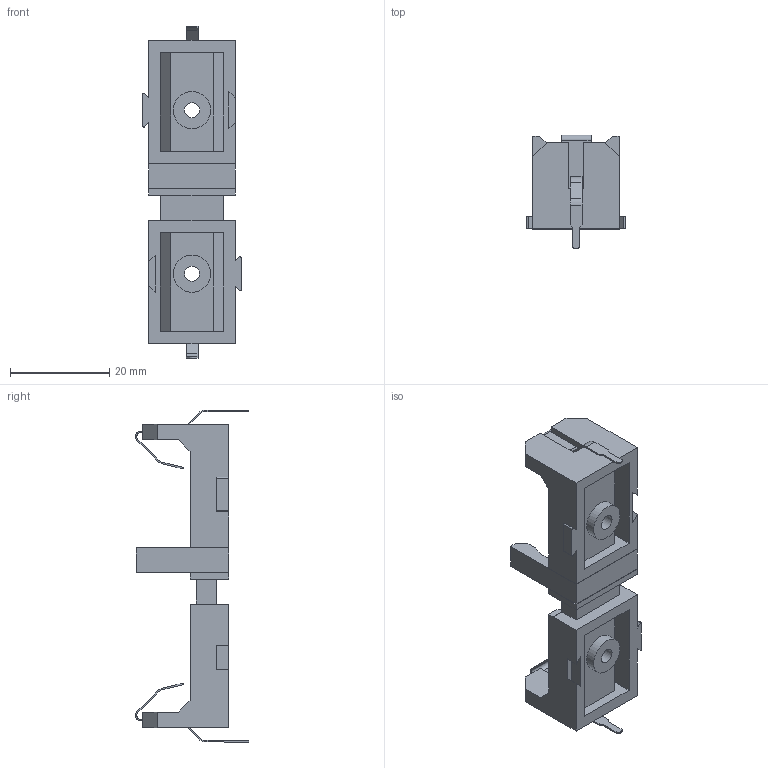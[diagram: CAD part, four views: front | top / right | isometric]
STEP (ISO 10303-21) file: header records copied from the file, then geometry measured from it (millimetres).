
FILE_DESCRIPTION(/* description */ (''),/* implementation_level */ '2;1');
FILE_NAME(/* name */ 'Z:\STEP folder\400-2803 Customer model.ipt.stp',/* time_stamp */ '2016-12-07T16:34:46+00:00',/* author */ ('paulk'),/* organization */ (''),/* preprocessor_version */ 'ST-DEVELOPER v15.2',/* originating_system */ 'Autodesk Inventor 2014',/* authorisation */ '');
FILE_SCHEMA (('AUTOMOTIVE_DESIGN { 1 0 10303 214 3 1 1 }'));
Length unit declared in the file: millimetre
Products named in the file (1): 400-2803 Customer model
Bounding box: 19.8 x 22.86 x 66.9 mm (x, y, z)
Volume: 6237.5 mm3; surface area: 6772.1 mm2
Topology: 1 solids, 1 shells, 243 faces, 712 edges, 470 vertices
Faces by surface type: plane 211, cylinder 32
Full cylindrical faces by diameter (mm): 3.05 x2, 5.97 x2, 7.49 x2
Entity records: 8200 total; most frequent: CARTESIAN_POINT 1416, ORIENTED_EDGE 1408, DIRECTION 1256, EDGE_CURVE 704, LINE 640, VECTOR 640, VERTEX_POINT 468, AXIS2_PLACEMENT_3D 308
